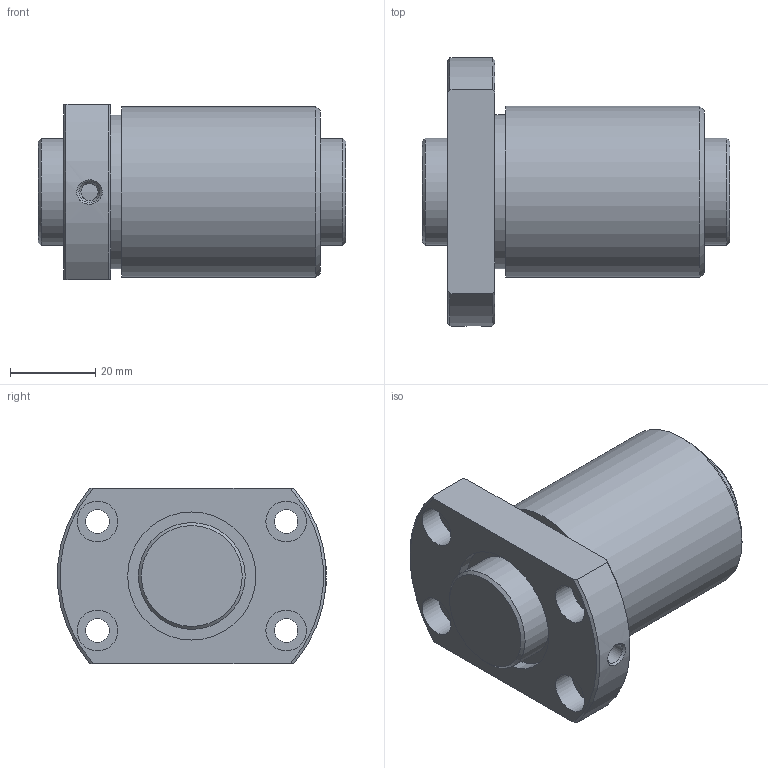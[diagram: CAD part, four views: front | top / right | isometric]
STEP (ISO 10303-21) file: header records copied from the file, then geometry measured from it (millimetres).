
FILE_DESCRIPTION(/* description */ ('STEP AP203'),/* implementation_level */ '2;1');
FILE_NAME(/* name */ 'DIK2506-4RRG0+72LC0_000',/* time_stamp */ '2025-01-13T09:48:53+01:00',/* author */ ('License CC BY-ND 4.0'),/* organization */ ('CADENAS'),/* preprocessor_version */ 'ST-DEVELOPER v19.3',/* originating_system */ 'PARTsolutions',/* authorisation */ ' ');
FILE_SCHEMA (('CONFIG_CONTROL_DESIGN'));
Length unit declared in the file: millimetre
Products named in the file (3): DIK2506-4RRG0+72LC0_000; DIK 2506-4RR07200 Shaft; DIK 2506-4RR Nut
Assembly tree (2 placements, depth 2):
  DIK2506-4RRG0+72LC0_000
    DIK 2506-4RR07200 Shaft
    DIK 2506-4RR Nut
Bounding box: 72 x 62.9 x 41 mm (x, y, z)
Volume: 89423.6 mm3; surface area: 24735.3 mm2
Topology: 2 solids, 2 shells, 41 faces, 83 edges, 54 vertices
Faces by surface type: cylinder 18, plane 14, cone 9
Full cylindrical faces by diameter (mm): 4 x1, 4.917 x1, 5.5 x4, 9.5 x4, 25 x2, 30 x2, 36 x1, 40 x1
Entity records: 1087 total; most frequent: CARTESIAN_POINT 200, DIRECTION 180, ORIENTED_EDGE 120, AXIS2_PLACEMENT_3D 86, EDGE_LOOP 82, FACE_BOUND 82, EDGE_CURVE 60, VERTEX_POINT 52
